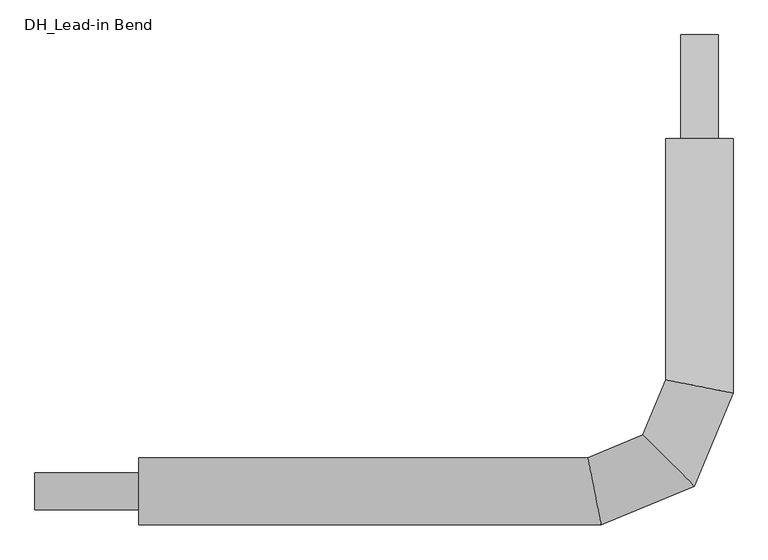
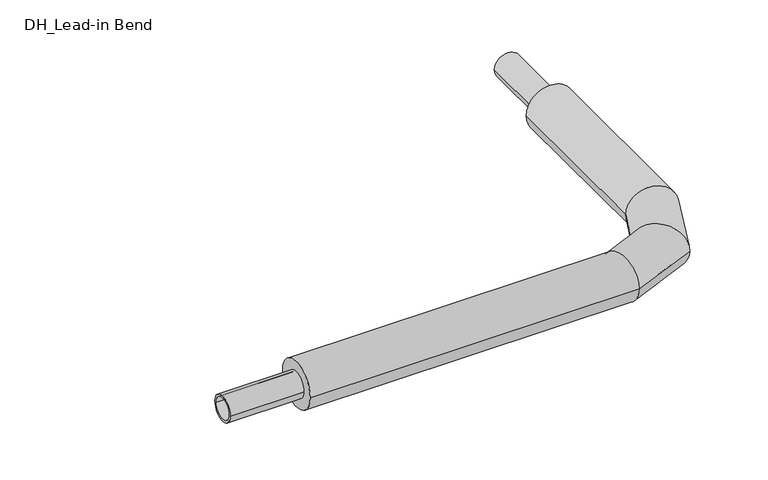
"""IFC4 building model written with IfcOpenShell, lengths in millimetres: pipe fitting geometry, DH_Lead-in Bend : RVT/RVX/RTX UNO 11 Heating."""

from ifc_helpers import new_model, si_unit, point, frame, origin, origin_2d, place, context, project, spatial, circle_curve, ellipse_curve, trimmed, segment, composite_curve, outline, extrude, source, transform, mapped, element, save
from ifc_brep_helpers import plane_surface, cylinder_surface, advanced_brep


def dh_lead_in_bend_594914a1(model_context):
    return source(origin(), model_context, "Body", "SolidModel", [
        advanced_brep(
        [(-1350.0, -81.0, 0.0), (-1350.0, 81.0, 0.0), (-236.7880982, -81.0, 0.0), (-269.0119018, 81.0, 0.0), (81.0, 850.0, 0.0), (-81.0, 850.0, 0.0), (-81.0, 269.0119018, 0.0), (81.0, 236.7880982, 0.0), (-12.077979, 12.077979, 0.0), (-136.0674111, 136.0674111, 0.0)],
        [
            (0, 1, circle_curve(frame((-1350.0, 0.0, 0.0), z_axis=(-1.0, 0.0, 0.0), x_axis=(0.0, 1.0, 0.0)), 81.0)),
            (1, 0, circle_curve(frame((-1350.0, 0.0, 0.0), z_axis=(-1.0, 0.0, 0.0), x_axis=(0.0, 1.0, 0.0)), 81.0)),
            (0, 2),
            (2, 3, ellipse_curve(frame((-252.9, 0.0, 0.0), z_axis=(-0.9807852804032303, -0.19509032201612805, 0.0), x_axis=(-0.19509032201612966, 0.9807852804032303, 0.0)), 82.5868838, 81.0)),
            (3, 1),
            (3, 2, ellipse_curve(frame((-252.9, 0.0, 0.0), z_axis=(-0.9807852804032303, -0.19509032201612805, 0.0), x_axis=(-0.19509032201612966, 0.9807852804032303, 0.0)), 82.5868838, 81.0)),
            (4, 5, circle_curve(frame((0.0, 850.0, 0.0), z_axis=(0.0, 1.0, 0.0), x_axis=(-1.0, 0.0, 0.0)), 81.0)),
            (5, 4, circle_curve(frame((0.0, 850.0, 0.0), z_axis=(0.0, 1.0, 0.0), x_axis=(-1.0, 0.0, 0.0)), 81.0)),
            (6, 7, ellipse_curve(frame((0.0, 252.9, 0.0), z_axis=(0.19509032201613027, 0.9807852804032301, 0.0), x_axis=(0.9807852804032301, -0.1950903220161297, 0.0)), 82.5868838, 81.0)),
            (7, 4),
            (5, 6),
            (7, 6, ellipse_curve(frame((0.0, 252.9, 0.0), z_axis=(0.19509032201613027, 0.9807852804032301, 0.0), x_axis=(0.9807852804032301, -0.1950903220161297, 0.0)), 82.5868838, 81.0)),
            (2, 8),
            (8, 9, ellipse_curve(frame((-74.072695, 74.072695, 0.0), z_axis=(-0.7071067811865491, -0.7071067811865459, 0.0), x_axis=(-0.7071067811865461, 0.7071067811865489, 0.0)), 87.6737682, 81.0)),
            (9, 3),
            (9, 8, ellipse_curve(frame((-74.072695, 74.072695, 0.0), z_axis=(-0.7071067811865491, -0.7071067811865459, 0.0), x_axis=(-0.7071067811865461, 0.7071067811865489, 0.0)), 87.6737682, 81.0)),
            (8, 7),
            (6, 9),
        ],
        [
            plane_surface(frame((-1350.0, 0.0, 0.0), z_axis=(-1.0, 0.0, 0.0), x_axis=(0.0, 0.0, 1.0))),
            cylinder_surface(frame((-1350.0, 0.0, 0.0), z_axis=(-1.0, 0.0, 0.0), x_axis=(0.0, 1.0, 0.0)), 81.0),
            plane_surface(frame((0.0, 850.0, 0.0), z_axis=(0.0, 1.0, 0.0), x_axis=(0.0, 0.0, 1.0))),
            cylinder_surface(frame((0.0, 252.9, 0.0), z_axis=(0.0, -1.0, 0.0), x_axis=(-1.0, 0.0, 0.0)), 81.0),
            cylinder_surface(frame((-252.9, 0.0, 0.0), z_axis=(-0.9238795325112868, -0.38268343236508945, 0.0), x_axis=(-0.38268343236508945, 0.9238795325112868, 0.0)), 81.0),
            cylinder_surface(frame((-74.072695, 74.072695, 0.0), z_axis=(-0.3826834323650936, -0.9238795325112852, 0.0), x_axis=(-0.9238795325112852, 0.3826834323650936, 0.0)), 81.0),
        ],
        [
            (0, [[1, 2]]),
            (1, [[-1, 3, 4, 5]]),
            (1, [[-2, -5, 6, -3]]),
            (2, [[7, 8]]),
            (3, [[9, 10, -8, 11]]),
            (3, [[12, -11, -7, -10]]),
            (4, [[-4, 13, 14, 15]]),
            (4, [[-6, -15, 16, -13]]),
            (5, [[-14, 17, -9, 18]]),
            (5, [[-16, -18, -12, -17]]),
        ],
    ),
        extrude(outline(composite_curve([segment(trimmed(circle_curve(origin_2d(), 45.0), [point((-45.0, 0.0))], [point((45.0, 0.0))], False, "CARTESIAN"), True, "CONTINUOUS"), segment(trimmed(circle_curve(origin_2d(), 45.0), [point((45.0, 0.0))], [point((-45.0, 0.0))], False, "CARTESIAN"), True, "CONTINUOUS")], self_intersect=False), holes=[composite_curve([segment(trimmed(circle_curve(origin_2d(), 36.8), [point((-36.8, 0.0))], [point((36.8, 0.0))], True, "CARTESIAN"), True, "CONTINUOUS"), segment(trimmed(circle_curve(origin_2d(), 36.8), [point((36.8, 0.0))], [point((-36.8, 0.0))], True, "CARTESIAN"), True, "CONTINUOUS")], self_intersect=False)]), frame((-1600.0, 0.0, 0.0), z_axis=(1.0, 0.0, 0.0), x_axis=(0.0, 1.0, 0.0)), (0.0, 0.0, 1.0), 250.0),
        extrude(outline(composite_curve([segment(trimmed(circle_curve(origin_2d(), 45.0), [point((0.0, 45.0))], [point((0.0, -45.0))], False, "CARTESIAN"), True, "CONTINUOUS"), segment(trimmed(circle_curve(origin_2d(), 45.0), [point((0.0, -45.0))], [point((0.0, 45.0))], False, "CARTESIAN"), True, "CONTINUOUS")], self_intersect=False), holes=[composite_curve([segment(trimmed(circle_curve(origin_2d(), 36.8), [point((0.0, 36.8))], [point((0.0, -36.8))], True, "CARTESIAN"), True, "CONTINUOUS"), segment(trimmed(circle_curve(origin_2d(), 36.8), [point((0.0, -36.8))], [point((0.0, 36.8))], True, "CARTESIAN"), True, "CONTINUOUS")], self_intersect=False)]), frame((0.0, 850.0, 0.0), z_axis=(0.0, 1.0, 0.0), x_axis=(0.0, 0.0, 1.0)), (0.0, 0.0, 1.0), 250.0),
    ])


if __name__ == "__main__":
    model = new_model("IFC4")
    model_context = context("Model", 3, world=origin())
    ifc_project = project(units=[si_unit("LENGTHUNIT", "METRE", prefix="MILLI")], contexts=[model_context])
    site = spatial("IfcSite", under=ifc_project)
    building = spatial("IfcBuilding", under=site)
    placement = place(None, origin())
    dh_lead_in_bend_shape = dh_lead_in_bend_594914a1(model_context)
    element("IfcPipeFitting", 1, ObjectType="DH_Lead-in Bend : RVT/RVX/RTX UNO 11 Heating", at=placement, inside=building, context=model_context, shape_type="MappedRepresentation", body=[
        mapped(dh_lead_in_bend_shape, transform((0.0, 0.0, 0.0), x_axis=(1.0, 0.0, 0.0), y_axis=(0.0, 1.0, 0.0), z_axis=(0.0, 0.0, 1.0))),
    ])
    save(model, "model.ifc")
